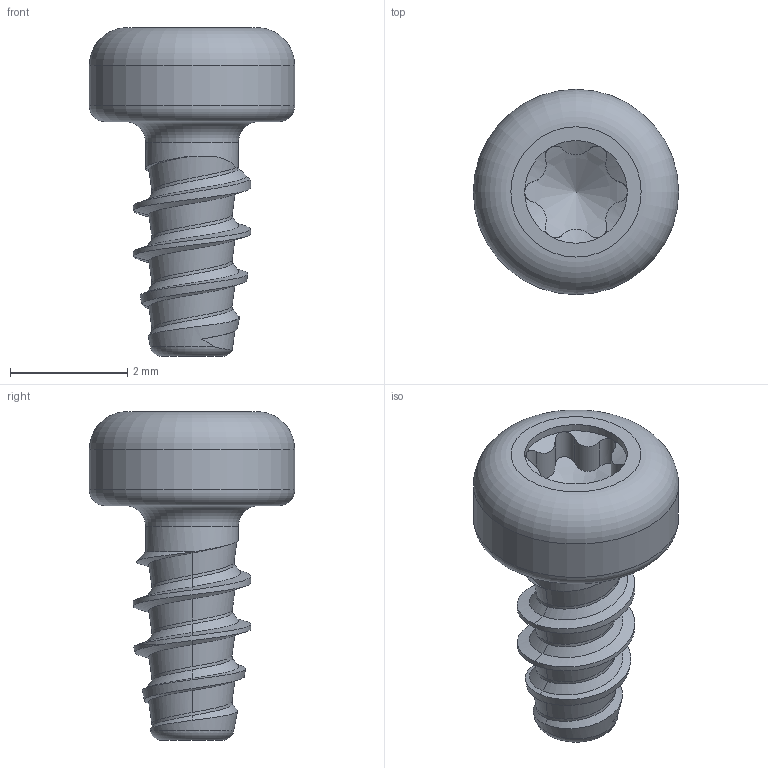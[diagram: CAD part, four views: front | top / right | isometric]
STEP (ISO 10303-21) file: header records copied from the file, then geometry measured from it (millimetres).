
FILE_DESCRIPTION(/* description */ (''),/* implementation_level */ '2;1');
FILE_NAME(/* name */ 'KN6039-STSplus-20x4-T6.step',/* time_stamp */ '2017-10-11T10:46:48+02:00',/* author */ (''),/* organization */ (''),/* preprocessor_version */ 'ST-DEVELOPER v16',/* originating_system */ 'SIEMENS PLM Software NX 10.0',/* authorisation */ '');
FILE_SCHEMA (('AUTOMOTIVE_DESIGN { 1 0 10303 214 3 1 1 1 }'));
Length unit declared in the file: millimetre
Products named in the file (1): KN6039-STSplus-20x4-T6
Bounding box: 3.5 x 3.5 x 5.6 mm (x, y, z)
Volume: 20.3 mm3; surface area: 60.2 mm2
Topology: 1 solids, 1 shells, 54 faces, 136 edges, 85 vertices
Faces by surface type: bspline 20, cylinder 17, cone 9, torus 4, plane 4
Full cylindrical faces by diameter (mm): 1.58 x1, 1.75 x1, 3.5 x1
Entity records: 3175 total; most frequent: CARTESIAN_POINT 2115, ORIENTED_EDGE 248, DIRECTION 136, EDGE_CURVE 124, VERTEX_POINT 82, B_SPLINE_CURVE_WITH_KNOTS 77, EDGE_LOOP 63, ADVANCED_FACE 54
